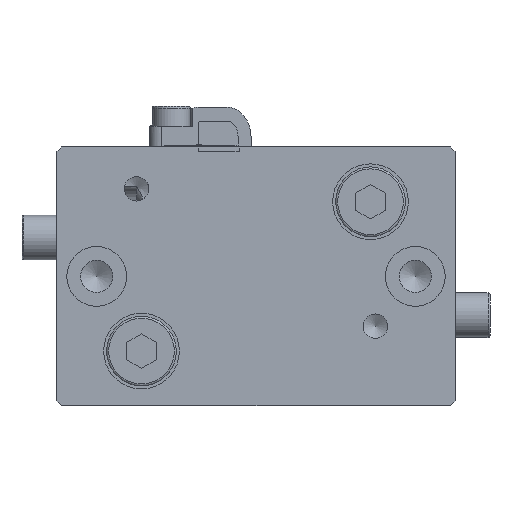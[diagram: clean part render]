
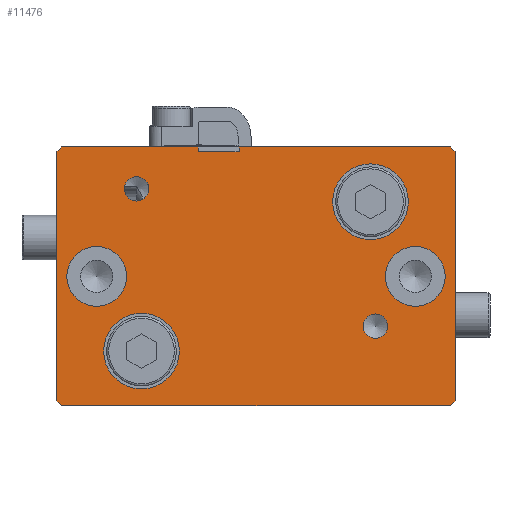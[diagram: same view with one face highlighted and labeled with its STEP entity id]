
A CAD part, front view. The second image highlights one B-rep face of the part: STEP entity #11476.
In plain terms, the highlighted planar face has unit normal (0, -1, 0) as drawn and (0, 1, 0) by its records, which use the part's own axes.
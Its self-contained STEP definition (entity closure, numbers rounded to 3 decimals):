
#291=CIRCLE('',#12035,1.23);
#292=CIRCLE('',#12036,1.23);
#293=CIRCLE('',#12037,3.8);
#294=CIRCLE('',#12038,3.8);
#295=CIRCLE('',#12039,3.);
#296=CIRCLE('',#12040,3.);
#595=ORIENTED_EDGE('',*,*,#3163,.T.);
#596=ORIENTED_EDGE('',*,*,#3164,.T.);
#597=ORIENTED_EDGE('',*,*,#3165,.T.);
#598=ORIENTED_EDGE('',*,*,#3166,.T.);
#599=ORIENTED_EDGE('',*,*,#3167,.T.);
#600=ORIENTED_EDGE('',*,*,#3168,.T.);
#601=ORIENTED_EDGE('',*,*,#3169,.T.);
#602=ORIENTED_EDGE('',*,*,#3170,.T.);
#603=ORIENTED_EDGE('',*,*,#3147,.T.);
#604=ORIENTED_EDGE('',*,*,#3171,.T.);
#605=ORIENTED_EDGE('',*,*,#3115,.T.);
#606=ORIENTED_EDGE('',*,*,#3172,.T.);
#607=ORIENTED_EDGE('',*,*,#3173,.T.);
#608=ORIENTED_EDGE('',*,*,#3174,.T.);
#609=ORIENTED_EDGE('',*,*,#3175,.T.);
#610=ORIENTED_EDGE('',*,*,#3176,.T.);
#611=ORIENTED_EDGE('',*,*,#3149,.T.);
#612=ORIENTED_EDGE('',*,*,#3177,.F.);
#3115=EDGE_CURVE('',#4401,#4400,#5298,.T.);
#3147=EDGE_CURVE('',#4430,#4432,#5324,.T.);
#3149=EDGE_CURVE('',#4435,#4433,#5326,.T.);
#3163=EDGE_CURVE('',#4448,#4448,#291,.T.);
#3164=EDGE_CURVE('',#4449,#4449,#292,.T.);
#3165=EDGE_CURVE('',#4450,#4450,#293,.T.);
#3166=EDGE_CURVE('',#4451,#4451,#294,.T.);
#3167=EDGE_CURVE('',#4452,#4452,#295,.T.);
#3168=EDGE_CURVE('',#4453,#4453,#296,.T.);
#3169=EDGE_CURVE('',#4454,#4455,#5337,.T.);
#3170=EDGE_CURVE('',#4455,#4430,#5338,.T.);
#3171=EDGE_CURVE('',#4432,#4401,#5339,.T.);
#3172=EDGE_CURVE('',#4400,#4456,#5340,.T.);
#3173=EDGE_CURVE('',#4456,#4457,#5341,.T.);
#3174=EDGE_CURVE('',#4457,#4458,#5342,.T.);
#3175=EDGE_CURVE('',#4458,#4459,#5343,.T.);
#3176=EDGE_CURVE('',#4459,#4435,#5344,.T.);
#3177=EDGE_CURVE('',#4454,#4433,#5345,.T.);
#4400=VERTEX_POINT('',#15427);
#4401=VERTEX_POINT('',#15429);
#4430=VERTEX_POINT('',#15511);
#4432=VERTEX_POINT('',#15515);
#4433=VERTEX_POINT('',#15519);
#4435=VERTEX_POINT('',#15522);
#4448=VERTEX_POINT('',#15552);
#4449=VERTEX_POINT('',#15554);
#4450=VERTEX_POINT('',#15556);
#4451=VERTEX_POINT('',#15558);
#4452=VERTEX_POINT('',#15560);
#4453=VERTEX_POINT('',#15562);
#4454=VERTEX_POINT('',#15564);
#4455=VERTEX_POINT('',#15565);
#4456=VERTEX_POINT('',#15569);
#4457=VERTEX_POINT('',#15571);
#4458=VERTEX_POINT('',#15573);
#4459=VERTEX_POINT('',#15575);
#5298=LINE('',#15428,#6310);
#5324=LINE('',#15516,#6336);
#5326=LINE('',#15521,#6338);
#5337=LINE('',#15563,#6349);
#5338=LINE('',#15566,#6350);
#5339=LINE('',#15567,#6351);
#5340=LINE('',#15568,#6352);
#5341=LINE('',#15570,#6353);
#5342=LINE('',#15572,#6354);
#5343=LINE('',#15574,#6355);
#5344=LINE('',#15576,#6356);
#5345=LINE('',#15577,#6357);
#6310=VECTOR('',#12827,1000.);
#6336=VECTOR('',#12863,1000.);
#6338=VECTOR('',#12867,1000.);
#6349=VECTOR('',#12902,1000.);
#6350=VECTOR('',#12903,1000.);
#6351=VECTOR('',#12904,1000.);
#6352=VECTOR('',#12905,1000.);
#6353=VECTOR('',#12906,1000.);
#6354=VECTOR('',#12907,1000.);
#6355=VECTOR('',#12908,1000.);
#6356=VECTOR('',#12909,1000.);
#6357=VECTOR('',#12910,1000.);
#7328=EDGE_LOOP('',(#595));
#7329=EDGE_LOOP('',(#596));
#7330=EDGE_LOOP('',(#597));
#7331=EDGE_LOOP('',(#598));
#7332=EDGE_LOOP('',(#599));
#7333=EDGE_LOOP('',(#600));
#7334=EDGE_LOOP('',(#601,#602,#603,#604,#605,#606,#607,#608,#609,#610,#611,
#612));
#7974=FACE_BOUND('',#7328,.T.);
#7975=FACE_BOUND('',#7329,.T.);
#7976=FACE_BOUND('',#7330,.T.);
#7977=FACE_BOUND('',#7331,.T.);
#7978=FACE_BOUND('',#7332,.T.);
#7979=FACE_BOUND('',#7333,.T.);
#7980=FACE_BOUND('',#7334,.T.);
#8625=PLANE('',#12034);
#11476=ADVANCED_FACE('',(#7974,#7975,#7976,#7977,#7978,#7979,#7980),#8625,
 .T.);
#12034=AXIS2_PLACEMENT_3D('',#15550,#12888,#12889);
#12035=AXIS2_PLACEMENT_3D('',#15551,#12890,#12891);
#12036=AXIS2_PLACEMENT_3D('',#15553,#12892,#12893);
#12037=AXIS2_PLACEMENT_3D('',#15555,#12894,#12895);
#12038=AXIS2_PLACEMENT_3D('',#15557,#12896,#12897);
#12039=AXIS2_PLACEMENT_3D('',#15559,#12898,#12899);
#12040=AXIS2_PLACEMENT_3D('',#15561,#12900,#12901);
#12827=DIRECTION('',(0.,0.,1.));
#12863=DIRECTION('',(-1.,0.,0.));
#12867=DIRECTION('',(-1.,0.,0.));
#12888=DIRECTION('',(0.,1.,0.));
#12889=DIRECTION('',(0.,0.,1.));
#12890=DIRECTION('',(0.,-1.,0.));
#12891=DIRECTION('',(0.,0.,-1.));
#12892=DIRECTION('',(0.,-1.,0.));
#12893=DIRECTION('',(0.,0.,-1.));
#12894=DIRECTION('',(0.,-1.,0.));
#12895=DIRECTION('',(0.,0.,-1.));
#12896=DIRECTION('',(0.,-1.,0.));
#12897=DIRECTION('',(0.,0.,-1.));
#12898=DIRECTION('',(0.,-1.,0.));
#12899=DIRECTION('',(0.,0.,-1.));
#12900=DIRECTION('',(0.,-1.,0.));
#12901=DIRECTION('',(0.,0.,-1.));
#12902=DIRECTION('',(-1.,0.,0.));
#12903=DIRECTION('',(0.,0.,-1.));
#12904=DIRECTION('',(-0.707,0.,0.707));
#12905=DIRECTION('',(0.707,0.,0.707));
#12906=DIRECTION('',(1.,0.,0.));
#12907=DIRECTION('',(0.707,0.,-0.707));
#12908=DIRECTION('',(0.,0.,-1.));
#12909=DIRECTION('',(-0.707,0.,-0.707));
#12910=DIRECTION('',(0.,0.,-1.));
#15427=CARTESIAN_POINT('',(-20.,44.,12.5));
#15428=CARTESIAN_POINT('',(-20.,44.,-12.5));
#15429=CARTESIAN_POINT('',(-20.,44.,-12.5));
#15511=CARTESIAN_POINT('',(-5.8,44.,-13.));
#15515=CARTESIAN_POINT('',(-19.5,44.,-13.));
#15516=CARTESIAN_POINT('',(19.5,44.,-13.));
#15519=CARTESIAN_POINT('',(-1.7,44.,-13.));
#15521=CARTESIAN_POINT('',(19.5,44.,-13.));
#15522=CARTESIAN_POINT('',(19.5,44.,-13.));
#15550=CARTESIAN_POINT('',(0.,44.,0.));
#15551=CARTESIAN_POINT('',(12.,44.,5.));
#15552=CARTESIAN_POINT('',(12.,44.,3.771));
#15553=CARTESIAN_POINT('',(-12.,44.,-8.8));
#15554=CARTESIAN_POINT('',(-12.,44.,-10.03));
#15555=CARTESIAN_POINT('',(-11.5,44.,7.5));
#15556=CARTESIAN_POINT('',(-11.5,44.,3.7));
#15557=CARTESIAN_POINT('',(11.5,44.,-7.5));
#15558=CARTESIAN_POINT('',(11.5,44.,-11.3));
#15559=CARTESIAN_POINT('',(-16.,44.,0.));
#15560=CARTESIAN_POINT('',(-16.,44.,-3.));
#15561=CARTESIAN_POINT('',(16.,44.,0.));
#15562=CARTESIAN_POINT('',(16.,44.,-3.));
#15563=CARTESIAN_POINT('',(-1.7,44.,-12.5));
#15564=CARTESIAN_POINT('',(-1.7,44.,-12.5));
#15565=CARTESIAN_POINT('',(-5.8,44.,-12.5));
#15566=CARTESIAN_POINT('',(-5.8,44.,-12.5));
#15567=CARTESIAN_POINT('',(-19.5,44.,-13.));
#15568=CARTESIAN_POINT('',(-20.,44.,12.5));
#15569=CARTESIAN_POINT('',(-19.5,44.,13.));
#15570=CARTESIAN_POINT('',(-19.5,44.,13.));
#15571=CARTESIAN_POINT('',(19.5,44.,13.));
#15572=CARTESIAN_POINT('',(19.5,44.,13.));
#15573=CARTESIAN_POINT('',(20.,44.,12.5));
#15574=CARTESIAN_POINT('',(20.,44.,12.5));
#15575=CARTESIAN_POINT('',(20.,44.,-12.5));
#15576=CARTESIAN_POINT('',(20.,44.,-12.5));
#15577=CARTESIAN_POINT('',(-1.7,44.,-12.5));
